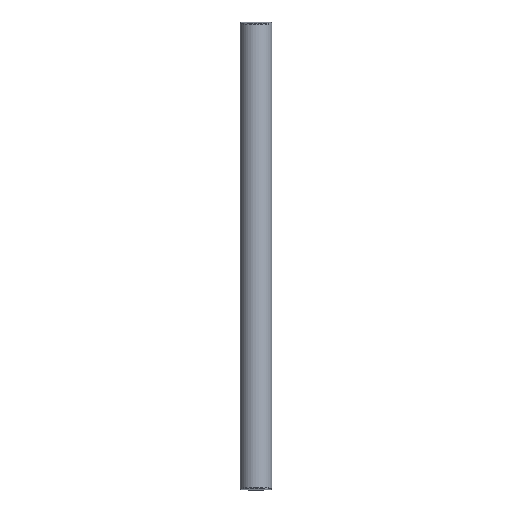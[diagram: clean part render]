
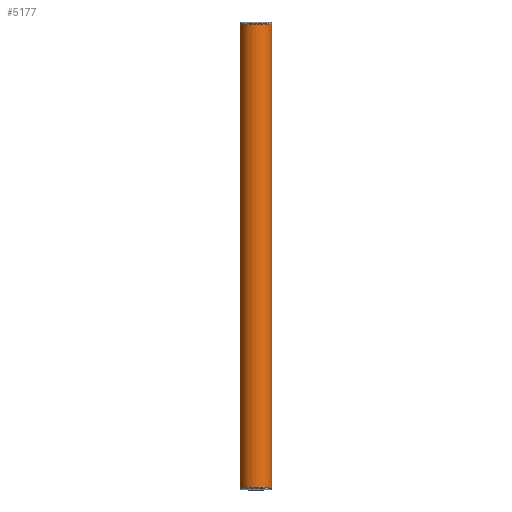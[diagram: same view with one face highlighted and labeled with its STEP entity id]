
A CAD part, front view. The second image highlights one B-rep face of the part: STEP entity #5177.
In plain terms, the highlighted cylindrical face has radius 38.7 mm (diameter 77.4 mm), a partial arc.
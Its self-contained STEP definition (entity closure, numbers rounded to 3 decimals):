
#61 = DIRECTION ( 'NONE',  ( 1., 0., 0. ) ) ;
#285 = CARTESIAN_POINT ( 'NONE',  ( 643.115, 843.559, 1693.759 ) ) ;
#292 = CARTESIAN_POINT ( 'NONE',  ( 605.022, 850.383, 569.759 ) ) ;
#304 = AXIS2_PLACEMENT_3D ( 'NONE', #292, #4001, #825 ) ;
#825 = DIRECTION ( 'NONE',  ( 1., 0., 0. ) ) ;
#1660 = CARTESIAN_POINT ( 'NONE',  ( 566.928, 843.559, 569.759 ) ) ;
#1694 = AXIS2_PLACEMENT_3D ( 'NONE', #5323, #6936, #2100 ) ;
#1727 = EDGE_CURVE ( 'NONE', #2336, #3337, #5056, .T. ) ;
#1877 = VECTOR ( 'NONE', #2827, 1000. ) ;
#2100 = DIRECTION ( 'NONE',  ( -1., 0., 0. ) ) ;
#2108 = VECTOR ( 'NONE', #6803, 1000. ) ;
#2212 = CYLINDRICAL_SURFACE ( 'NONE', #1694, 38.7 ) ;
#2336 = VERTEX_POINT ( 'NONE', #1660 ) ;
#2582 = ORIENTED_EDGE ( 'NONE', *, *, #6848, .F. ) ;
#2827 = DIRECTION ( 'NONE',  ( 0., 0., -1. ) ) ;
#3009 = ORIENTED_EDGE ( 'NONE', *, *, #1727, .T. ) ;
#3248 = DIRECTION ( 'NONE',  ( 0., 0., 1. ) ) ;
#3337 = VERTEX_POINT ( 'NONE', #6261 ) ;
#3537 = LINE ( 'NONE', #3569, #2108 ) ;
#3569 = CARTESIAN_POINT ( 'NONE',  ( 643.115, 843.559, 1693.759 ) ) ;
#3880 = CIRCLE ( 'NONE', #5293, 38.7 ) ;
#4001 = DIRECTION ( 'NONE',  ( 0., 0., 1. ) ) ;
#4046 = CARTESIAN_POINT ( 'NONE',  ( 566.928, 843.559, 1693.759 ) ) ;
#5056 = CIRCLE ( 'NONE', #304, 38.7 ) ;
#5177 = ADVANCED_FACE ( 'NONE', ( #5773 ), #2212, .T. ) ;
#5218 = EDGE_CURVE ( 'NONE', #6951, #5513, #3880, .T. ) ;
#5293 = AXIS2_PLACEMENT_3D ( 'NONE', #6481, #3248, #61 ) ;
#5323 = CARTESIAN_POINT ( 'NONE',  ( 605.022, 850.383, 1693.759 ) ) ;
#5342 = EDGE_CURVE ( 'NONE', #6951, #2336, #6166, .T. ) ;
#5513 = VERTEX_POINT ( 'NONE', #285 ) ;
#5719 = ORIENTED_EDGE ( 'NONE', *, *, #5218, .F. ) ;
#5773 = FACE_OUTER_BOUND ( 'NONE', #6161, .T. ) ;
#5828 = ORIENTED_EDGE ( 'NONE', *, *, #5342, .T. ) ;
#6161 = EDGE_LOOP ( 'NONE', ( #3009, #2582, #5719, #5828 ) ) ;
#6166 = LINE ( 'NONE', #6593, #1877 ) ;
#6261 = CARTESIAN_POINT ( 'NONE',  ( 643.115, 843.559, 569.759 ) ) ;
#6481 = CARTESIAN_POINT ( 'NONE',  ( 605.022, 850.383, 1693.759 ) ) ;
#6593 = CARTESIAN_POINT ( 'NONE',  ( 566.928, 843.559, 1693.759 ) ) ;
#6803 = DIRECTION ( 'NONE',  ( 0., 0., -1. ) ) ;
#6848 = EDGE_CURVE ( 'NONE', #5513, #3337, #3537, .T. ) ;
#6936 = DIRECTION ( 'NONE',  ( 0., 0., -1. ) ) ;
#6951 = VERTEX_POINT ( 'NONE', #4046 ) ;
